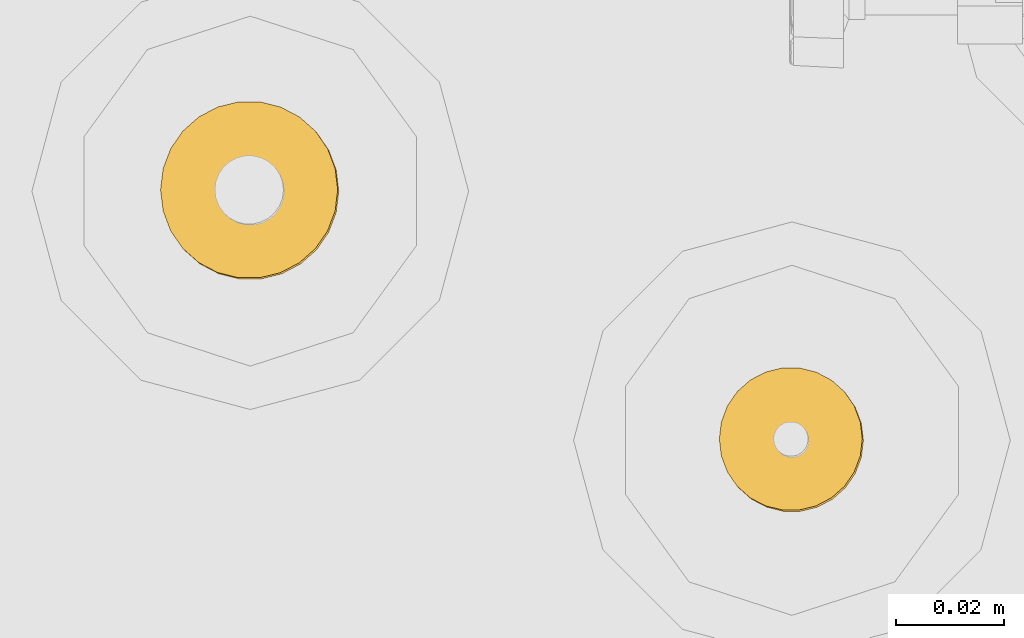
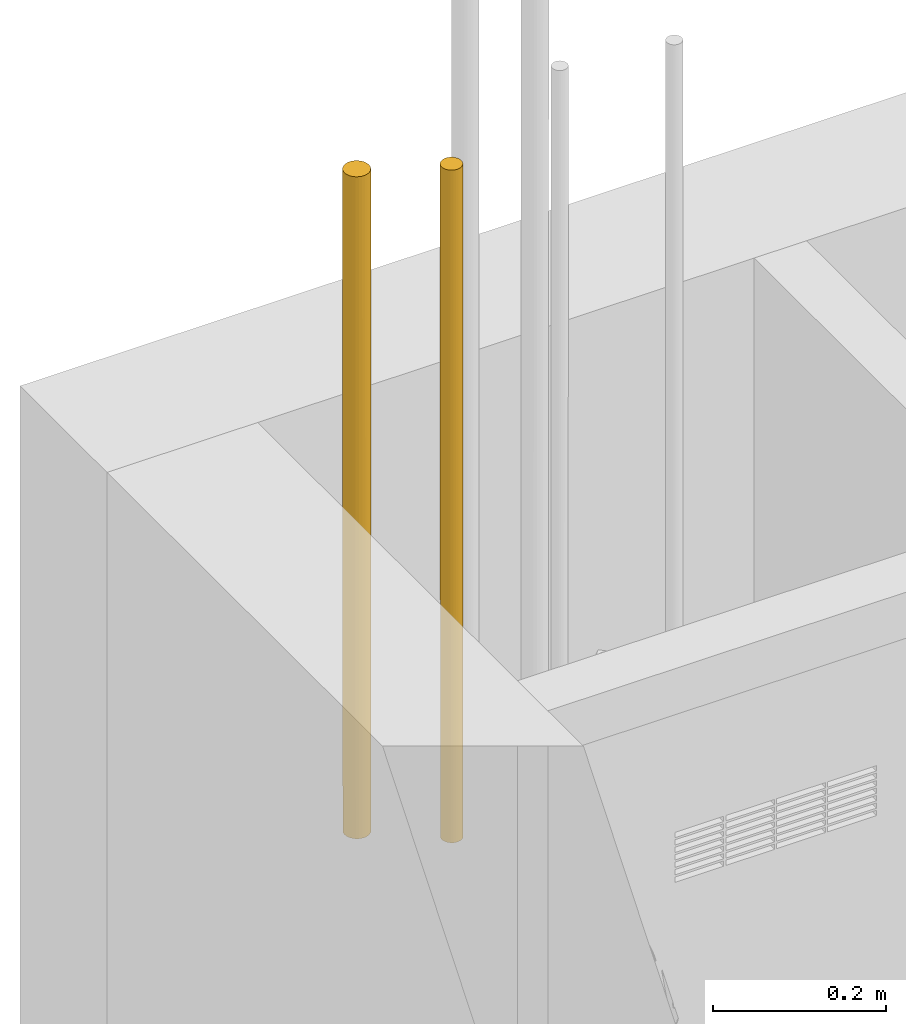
# One storey, part 2 of 8: 2 coverings.
"""IFC2X3 building model written with IfcOpenShell, lengths in metres."""

from ifc_helpers import new_model, entity, si_unit, converted_unit, derived_unit, direction, frame, frame_2d, origin, origin_2d_with_axis, place, context, subcontext, project, spatial, circle, extrude, material, type_object, element, save


model = new_model("IFC2X3")

# Units and contexts
model_context = context("Model", 3, precision=1e-05, world=origin(), true_north=direction((6.123031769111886e-17, 1.0)))
body_context = subcontext(model_context, "Body", "Model", "MODEL_VIEW")
ifc_project = project(units=[si_unit("LENGTHUNIT", "METRE"), si_unit("AREAUNIT", "SQUARE_METRE"), si_unit("VOLUMEUNIT", "CUBIC_METRE"), converted_unit("PLANEANGLEUNIT", "DEGREE", entity("IfcPlaneAngleMeasure", 0.017453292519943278), si_unit("PLANEANGLEUNIT", "RADIAN"), dimensions=[0, 0, 0, 0, 0, 0, 0]), si_unit("MASSUNIT", "GRAM", prefix="KILO"), derived_unit("MASSDENSITYUNIT", [(si_unit("MASSUNIT", "GRAM", prefix="KILO"), 1), (si_unit("LENGTHUNIT", "METRE"), -3)]), derived_unit("IONCONCENTRATIONUNIT", [(si_unit("MASSUNIT", "GRAM", prefix="KILO"), 1), (si_unit("LENGTHUNIT", "METRE"), -3)]), derived_unit("MOMENTOFINERTIAUNIT", [(si_unit("LENGTHUNIT", "METRE"), 4)]), si_unit("TIMEUNIT", "SECOND"), si_unit("FREQUENCYUNIT", "HERTZ"), si_unit("THERMODYNAMICTEMPERATUREUNIT", "DEGREE_CELSIUS"), derived_unit("THERMALTRANSMITTANCEUNIT", [(si_unit("MASSUNIT", "GRAM", prefix="KILO"), 1), (si_unit("THERMODYNAMICTEMPERATUREUNIT", "KELVIN"), -1), (si_unit("TIMEUNIT", "SECOND"), -3)]), derived_unit("THERMALCONDUCTANCEUNIT", [(si_unit("MASSUNIT", "GRAM", prefix="KILO"), 1), (si_unit("THERMODYNAMICTEMPERATUREUNIT", "KELVIN"), -1), (si_unit("TIMEUNIT", "SECOND"), -3), (si_unit("LENGTHUNIT", "METRE"), 1)]), derived_unit("VOLUMETRICFLOWRATEUNIT", [(si_unit("LENGTHUNIT", "METRE", prefix="DECI"), 3), (si_unit("TIMEUNIT", "SECOND"), -1)]), derived_unit("MASSFLOWRATEUNIT", [(si_unit("MASSUNIT", "GRAM", prefix="KILO"), 1), (si_unit("TIMEUNIT", "SECOND"), -1)]), derived_unit("ROTATIONALFREQUENCYUNIT", [(si_unit("TIMEUNIT", "SECOND"), -1)]), si_unit("ELECTRICCURRENTUNIT", "AMPERE"), si_unit("ELECTRICVOLTAGEUNIT", "VOLT"), si_unit("POWERUNIT", "WATT"), si_unit("FORCEUNIT", "NEWTON", prefix="KILO"), si_unit("ILLUMINANCEUNIT", "LUX"), si_unit("LUMINOUSFLUXUNIT", "LUMEN"), si_unit("LUMINOUSINTENSITYUNIT", "CANDELA"), si_unit("ENERGYUNIT", "JOULE"), derived_unit("USERDEFINED", [(si_unit("MASSUNIT", "GRAM", prefix="KILO"), -1), (si_unit("LENGTHUNIT", "METRE"), -2), (si_unit("TIMEUNIT", "SECOND"), 3), (si_unit("LUMINOUSFLUXUNIT", "LUMEN"), 1)]), derived_unit("USERDEFINED", [(si_unit("MASSUNIT", "GRAM", prefix="KILO"), 1), (si_unit("TIMEUNIT", "SECOND"), -3), (si_unit("LENGTHUNIT", "METRE"), 3), (si_unit("ELECTRICCURRENTUNIT", "AMPERE"), -2)]), derived_unit("SOUNDPOWERUNIT", [(si_unit("MASSUNIT", "GRAM", prefix="KILO"), 1), (si_unit("TIMEUNIT", "SECOND"), -3), (si_unit("LENGTHUNIT", "METRE"), 2)]), derived_unit("SOUNDPRESSUREUNIT", [(si_unit("MASSUNIT", "GRAM", prefix="KILO"), 1), (si_unit("LENGTHUNIT", "METRE"), -1), (si_unit("TIMEUNIT", "SECOND"), -2)]), derived_unit("LINEARVELOCITYUNIT", [(si_unit("LENGTHUNIT", "METRE"), 1), (si_unit("TIMEUNIT", "SECOND"), -1)]), si_unit("PRESSUREUNIT", "PASCAL"), derived_unit("USERDEFINED", [(si_unit("MASSUNIT", "GRAM", prefix="KILO"), 1), (si_unit("LENGTHUNIT", "METRE"), -2), (si_unit("TIMEUNIT", "SECOND"), -2)]), derived_unit("LINEARFORCEUNIT", [(si_unit("MASSUNIT", "GRAM", prefix="KILO"), 1), (si_unit("TIMEUNIT", "SECOND"), -2)]), derived_unit("PLANARFORCEUNIT", [(si_unit("MASSUNIT", "GRAM", prefix="KILO"), 1), (si_unit("LENGTHUNIT", "METRE"), -1), (si_unit("TIMEUNIT", "SECOND"), -2)]), derived_unit("SPECIFICHEATCAPACITYUNIT", [(si_unit("THERMODYNAMICTEMPERATUREUNIT", "KELVIN"), -1), (si_unit("LENGTHUNIT", "METRE"), 2), (si_unit("TIMEUNIT", "SECOND"), -2)]), derived_unit("HEATFLUXDENSITYUNIT", [(si_unit("MASSUNIT", "GRAM", prefix="KILO"), 1), (si_unit("TIMEUNIT", "SECOND"), -3)]), derived_unit("HEATINGVALUEUNIT", [(si_unit("LENGTHUNIT", "METRE"), 2), (si_unit("TIMEUNIT", "SECOND"), -2)]), derived_unit("VAPORPERMEABILITYUNIT", [(si_unit("LENGTHUNIT", "METRE"), -1), (si_unit("TIMEUNIT", "SECOND"), 1)]), derived_unit("DYNAMICVISCOSITYUNIT", [(si_unit("MASSUNIT", "GRAM", prefix="KILO"), 1), (si_unit("TIMEUNIT", "SECOND"), -1), (si_unit("LENGTHUNIT", "METRE"), -1)]), derived_unit("THERMALEXPANSIONCOEFFICIENTUNIT", [(si_unit("THERMODYNAMICTEMPERATUREUNIT", "KELVIN"), -1)]), derived_unit("MODULUSOFELASTICITYUNIT", [(si_unit("MASSUNIT", "GRAM", prefix="KILO"), 1), (si_unit("LENGTHUNIT", "METRE"), -1), (si_unit("TIMEUNIT", "SECOND"), -2)]), derived_unit("ISOTHERMALMOISTURECAPACITYUNIT", [(si_unit("MASSUNIT", "GRAM", prefix="KILO"), -1), (si_unit("LENGTHUNIT", "METRE"), 3)]), derived_unit("MOISTUREDIFFUSIVITYUNIT", [(si_unit("TIMEUNIT", "SECOND"), -1), (si_unit("LENGTHUNIT", "METRE"), 2)]), derived_unit("MASSPERLENGTHUNIT", [(si_unit("MASSUNIT", "GRAM", prefix="KILO"), 1), (si_unit("LENGTHUNIT", "METRE"), -1)]), derived_unit("THERMALRESISTANCEUNIT", [(si_unit("MASSUNIT", "GRAM", prefix="KILO"), -1), (si_unit("TIMEUNIT", "SECOND"), 3), (si_unit("THERMODYNAMICTEMPERATUREUNIT", "KELVIN"), 1)]), derived_unit("ACCELERATIONUNIT", [(si_unit("LENGTHUNIT", "METRE"), 1), (si_unit("TIMEUNIT", "SECOND"), -2)]), derived_unit("ANGULARVELOCITYUNIT", [(si_unit("TIMEUNIT", "SECOND"), -1), (si_unit("PLANEANGLEUNIT", "RADIAN"), 1)]), derived_unit("LINEARSTIFFNESSUNIT", [(si_unit("MASSUNIT", "GRAM", prefix="KILO"), 1), (si_unit("TIMEUNIT", "SECOND"), -2)]), derived_unit("WARPINGCONSTANTUNIT", [(si_unit("LENGTHUNIT", "METRE"), 6)]), derived_unit("LINEARMOMENTUNIT", [(si_unit("MASSUNIT", "GRAM", prefix="KILO"), 1), (si_unit("LENGTHUNIT", "METRE"), 1), (si_unit("TIMEUNIT", "SECOND"), -2)]), derived_unit("TORQUEUNIT", [(si_unit("MASSUNIT", "GRAM", prefix="KILO"), 1), (si_unit("LENGTHUNIT", "METRE"), 2), (si_unit("TIMEUNIT", "SECOND"), -2)])], contexts=[model_context])

# Site, building, storey
site_placement = place(None, origin())
site = spatial("IfcSite", under=ifc_project, at=site_placement, Name="Default", CompositionType="ELEMENT")
building_placement = place(site_placement, origin())
building = spatial("IfcBuilding", under=site, at=building_placement, CompositionType="ELEMENT")
storey_placement = place(building_placement, origin())
storey = spatial("IfcBuildingStorey", under=building, at=storey_placement, Name="Niveau 0", CompositionType="ELEMENT", Elevation=-1.949160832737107e-14)

# Coverings
ifc_material = material(Name="Matériau du rendu 255-255-255")
covering_type = type_object("IfcCoveringType", Name="Isolation des canalisations:Par défaut", PredefinedType="INSULATION")
covering_1_placement = place(storey_placement, origin())
element("IfcCovering", 1, at=covering_1_placement, inside=storey, type_object=covering_type, material=ifc_material, Name="Isolation des canalisations:Par défaut", ObjectType="Isolation des canalisations:Par défaut", PredefinedType="INSULATION", context=body_context, shape_type="SweptSolid", body=[
    extrude(circle(Radius=0.0132, at=frame_2d((0.0, 5.414335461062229e-16), x_axis=(1.0, 0.0))), frame((-8.619107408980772, 2.720278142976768, 1.9300000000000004), z_axis=(-0.000217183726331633, 0.0002617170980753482, 0.9999999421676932), x_axis=(-0.9999999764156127, 0.0, -0.0002171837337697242)), (0.0, 0.0, 1.0), 0.9488616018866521),
])
covering_2_placement = place(storey_placement, origin())
element("IfcCovering", 2, at=covering_2_placement, inside=storey, type_object=covering_type, material=ifc_material, Name="Isolation des canalisations:Par défaut", ObjectType="Isolation des canalisations:Par défaut", PredefinedType="INSULATION", context=body_context, shape_type="SweptSolid", body=[
    extrude(circle(Radius=0.01635, at=origin_2d_with_axis()), frame((-8.719107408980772, 2.7662947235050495, 1.9449999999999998), z_axis=(-0.0002207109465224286, 0.00024816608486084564, 0.999999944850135), x_axis=(-0.9999999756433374, 0.0, -0.00022071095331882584)), (0.0, 0.0, 1.0), 0.933861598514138),
])

save(model, "model.ifc")
